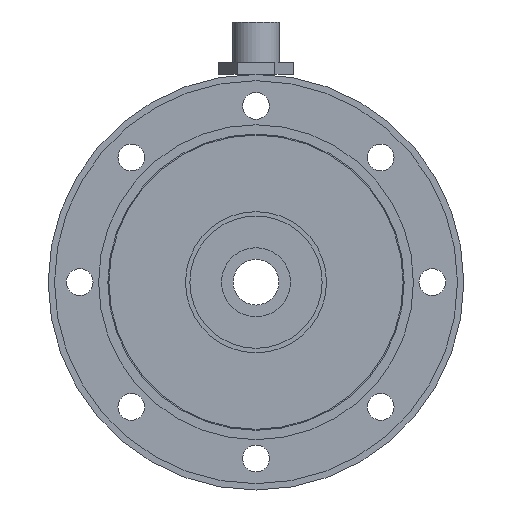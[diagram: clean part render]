
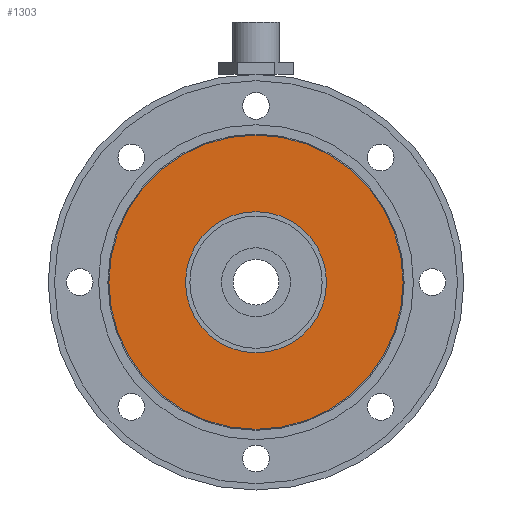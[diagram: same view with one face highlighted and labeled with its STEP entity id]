
A CAD part, front view. The second image highlights one B-rep face of the part: STEP entity #1303.
In plain terms, the highlighted planar face has unit normal (0, -1, 0).
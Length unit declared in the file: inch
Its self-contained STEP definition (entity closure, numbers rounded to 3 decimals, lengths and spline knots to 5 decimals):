
#99 = VERTEX_POINT ( 'NONE', #248 ) ;
#104 = VERTEX_POINT ( 'NONE', #245 ) ;
#113 = VERTEX_POINT ( 'NONE', #229 ) ;
#114 = VERTEX_POINT ( 'NONE', #251 ) ;
#229 = CARTESIAN_POINT ( 'NONE',  ( 0., 0.015, -0.7 ) ) ;
#245 = CARTESIAN_POINT ( 'NONE',  ( 0., 0.015, 0.7 ) ) ;
#248 = CARTESIAN_POINT ( 'NONE',  ( 0., 0.015, 1.46 ) ) ;
#251 = CARTESIAN_POINT ( 'NONE',  ( 0., 0.015, -1.46 ) ) ;
#367 = DIRECTION ( 'NONE',  ( 0., 0., 1. ) ) ;
#378 = DIRECTION ( 'NONE',  ( 0., 1., 0. ) ) ;
#389 = CARTESIAN_POINT ( 'NONE',  ( 0., 0.015, 0. ) ) ;
#691 = EDGE_LOOP ( 'NONE', ( #1598, #1596 ) ) ;
#743 = EDGE_LOOP ( 'NONE', ( #1586, #1592 ) ) ;
#804 = EDGE_CURVE ( 'NONE', #114, #99, #1731, .T. ) ;
#904 = EDGE_CURVE ( 'NONE', #104, #113, #1855, .T. ) ;
#919 = EDGE_CURVE ( 'NONE', #99, #114, #1334, .T. ) ;
#956 = EDGE_CURVE ( 'NONE', #113, #104, #1316, .T. ) ;
#990 = AXIS2_PLACEMENT_3D ( 'NONE', #389, #378, #367 ) ;
#1070 = AXIS2_PLACEMENT_3D ( 'NONE', #2216, #2228, #2225 ) ;
#1083 = AXIS2_PLACEMENT_3D ( 'NONE', #2140, #2141, #2142 ) ;
#1106 = AXIS2_PLACEMENT_3D ( 'NONE', #2100, #2065, #2101 ) ;
#1303 = ADVANCED_FACE ( 'NONE', ( #2835, #2825 ), #2552, .F. ) ;
#1316 = CIRCLE ( 'NONE', #1070, 0.7 ) ;
#1334 = CIRCLE ( 'NONE', #1083, 1.46 ) ;
#1586 = ORIENTED_EDGE ( 'NONE', *, *, #919, .F. ) ;
#1592 = ORIENTED_EDGE ( 'NONE', *, *, #804, .F. ) ;
#1596 = ORIENTED_EDGE ( 'NONE', *, *, #956, .T. ) ;
#1598 = ORIENTED_EDGE ( 'NONE', *, *, #904, .T. ) ;
#1731 = CIRCLE ( 'NONE', #990, 1.46 ) ;
#1855 = CIRCLE ( 'NONE', #1106, 0.7 ) ;
#2065 = DIRECTION ( 'NONE',  ( 0., 1., 0. ) ) ;
#2100 = CARTESIAN_POINT ( 'NONE',  ( 0., 0.015, 0. ) ) ;
#2101 = DIRECTION ( 'NONE',  ( 0., 0., 1. ) ) ;
#2140 = CARTESIAN_POINT ( 'NONE',  ( 0., 0.015, 0. ) ) ;
#2141 = DIRECTION ( 'NONE',  ( 0., 1., 0. ) ) ;
#2142 = DIRECTION ( 'NONE',  ( 0., 0., 1. ) ) ;
#2216 = CARTESIAN_POINT ( 'NONE',  ( 0., 0.015, 0. ) ) ;
#2225 = DIRECTION ( 'NONE',  ( 0., 0., 1. ) ) ;
#2228 = DIRECTION ( 'NONE',  ( 0., 1., 0. ) ) ;
#2548 = DIRECTION ( 'NONE',  ( 0., 0., 1. ) ) ;
#2552 = PLANE ( 'NONE',  #2913 ) ;
#2553 = CARTESIAN_POINT ( 'NONE',  ( 0., 0.015, 0. ) ) ;
#2567 = DIRECTION ( 'NONE',  ( 0., 1., 0. ) ) ;
#2825 = FACE_OUTER_BOUND ( 'NONE', #743, .T. ) ;
#2835 = FACE_BOUND ( 'NONE', #691, .T. ) ;
#2913 = AXIS2_PLACEMENT_3D ( 'NONE', #2553, #2567, #2548 ) ;
